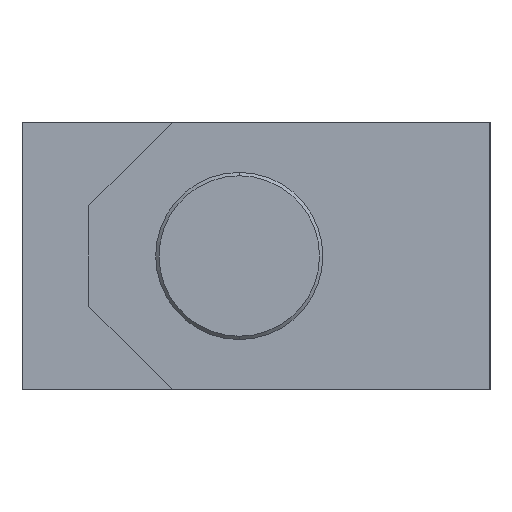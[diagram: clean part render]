
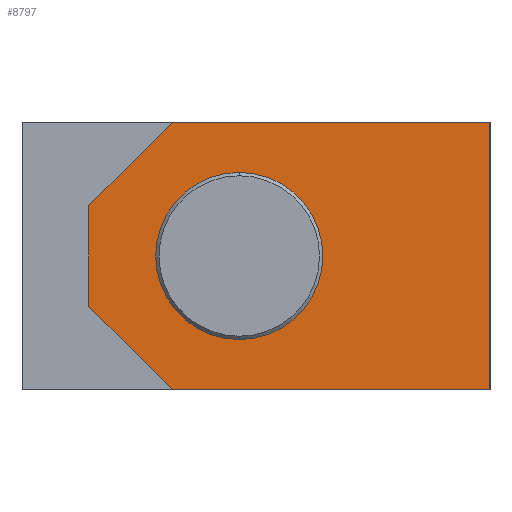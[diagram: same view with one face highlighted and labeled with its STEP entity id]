
A CAD part, left-side view. The second image highlights one B-rep face of the part: STEP entity #8797.
In plain terms, the highlighted planar face has unit normal (-1, 0, 0).
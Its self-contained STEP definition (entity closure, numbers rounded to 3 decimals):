
#340 = DIRECTION ( 'NONE',  ( -1., 0., 0. ) ) ;
#385 = EDGE_CURVE ( 'NONE', #18277, #7025, #10015, .T. ) ;
#622 = CARTESIAN_POINT ( 'NONE',  ( -30., 3., 5. ) ) ;
#796 = VERTEX_POINT ( 'NONE', #25335 ) ;
#1069 = FACE_OUTER_BOUND ( 'NONE', #17005, .T. ) ;
#1491 = LINE ( 'NONE', #9176, #5732 ) ;
#1570 = LINE ( 'NONE', #15392, #24540 ) ;
#1713 = CARTESIAN_POINT ( 'NONE',  ( -30., -12., -8. ) ) ;
#2108 = VECTOR ( 'NONE', #7360, 1000. ) ;
#2469 = ORIENTED_EDGE ( 'NONE', *, *, #385, .F. ) ;
#2875 = EDGE_CURVE ( 'NONE', #18263, #17899, #1491, .T. ) ;
#3131 = EDGE_CURVE ( 'NONE', #21589, #25098, #15040, .T. ) ;
#3338 = LINE ( 'NONE', #7189, #13876 ) ;
#3763 = VECTOR ( 'NONE', #8269, 1000. ) ;
#3883 = AXIS2_PLACEMENT_3D ( 'NONE', #10990, #5105, #5490 ) ;
#4454 = EDGE_LOOP ( 'NONE', ( #24398, #2469 ) ) ;
#4774 = CARTESIAN_POINT ( 'NONE',  ( -30., -12., -8. ) ) ;
#4875 = EDGE_CURVE ( 'NONE', #7025, #18277, #22151, .T. ) ;
#5105 = DIRECTION ( 'NONE',  ( -1., 0., 0. ) ) ;
#5490 = DIRECTION ( 'NONE',  ( 0., 0., 1. ) ) ;
#5732 = VECTOR ( 'NONE', #24794, 1000. ) ;
#6141 = AXIS2_PLACEMENT_3D ( 'NONE', #12219, #16299, #8887 ) ;
#7025 = VERTEX_POINT ( 'NONE', #622 ) ;
#7189 = CARTESIAN_POINT ( 'NONE',  ( -30., -12., 8. ) ) ;
#7360 = DIRECTION ( 'NONE',  ( 0., 0.707, -0.707 ) ) ;
#7659 = DIRECTION ( 'NONE',  ( 0., 0., 1. ) ) ;
#8269 = DIRECTION ( 'NONE',  ( 0., 0., -1. ) ) ;
#8521 = LINE ( 'NONE', #12238, #3763 ) ;
#8797 = ADVANCED_FACE ( 'NONE', ( #18607, #1069 ), #23996, .F. ) ;
#8887 = DIRECTION ( 'NONE',  ( 0., 0., -1. ) ) ;
#9176 = CARTESIAN_POINT ( 'NONE',  ( -30., 12., -3. ) ) ;
#10015 = CIRCLE ( 'NONE', #3883, 5. ) ;
#10098 = ORIENTED_EDGE ( 'NONE', *, *, #16334, .F. ) ;
#10990 = CARTESIAN_POINT ( 'NONE',  ( -30., 3., 0. ) ) ;
#11159 = DIRECTION ( 'NONE',  ( 0., 1., 0. ) ) ;
#11229 = VERTEX_POINT ( 'NONE', #1713 ) ;
#11612 = ORIENTED_EDGE ( 'NONE', *, *, #3131, .T. ) ;
#12219 = CARTESIAN_POINT ( 'NONE',  ( -30., 0., 0. ) ) ;
#12238 = CARTESIAN_POINT ( 'NONE',  ( -30., -12., 8. ) ) ;
#12590 = DIRECTION ( 'NONE',  ( 0., 1., 0. ) ) ;
#12912 = ORIENTED_EDGE ( 'NONE', *, *, #15494, .F. ) ;
#13437 = VECTOR ( 'NONE', #12590, 1000. ) ;
#13534 = CARTESIAN_POINT ( 'NONE',  ( -30., 7., 8. ) ) ;
#13616 = CARTESIAN_POINT ( 'NONE',  ( -30., 7., -8. ) ) ;
#13876 = VECTOR ( 'NONE', #11159, 1000. ) ;
#15005 = CARTESIAN_POINT ( 'NONE',  ( -30., 12., -3. ) ) ;
#15040 = LINE ( 'NONE', #22857, #2108 ) ;
#15392 = CARTESIAN_POINT ( 'NONE',  ( -30., 12., 3. ) ) ;
#15494 = EDGE_CURVE ( 'NONE', #796, #11229, #8521, .T. ) ;
#15827 = ORIENTED_EDGE ( 'NONE', *, *, #18343, .T. ) ;
#16173 = LINE ( 'NONE', #4774, #13437 ) ;
#16299 = DIRECTION ( 'NONE',  ( 1., 0., 0. ) ) ;
#16334 = EDGE_CURVE ( 'NONE', #11229, #17899, #16173, .T. ) ;
#16915 = CARTESIAN_POINT ( 'NONE',  ( -30., 3., -5. ) ) ;
#17005 = EDGE_LOOP ( 'NONE', ( #12912, #15827, #11612, #17393, #18907, #10098 ) ) ;
#17393 = ORIENTED_EDGE ( 'NONE', *, *, #22701, .T. ) ;
#17881 = CARTESIAN_POINT ( 'NONE',  ( -30., 3., 0. ) ) ;
#17899 = VERTEX_POINT ( 'NONE', #13616 ) ;
#18263 = VERTEX_POINT ( 'NONE', #15005 ) ;
#18277 = VERTEX_POINT ( 'NONE', #16915 ) ;
#18343 = EDGE_CURVE ( 'NONE', #796, #21589, #3338, .T. ) ;
#18607 = FACE_BOUND ( 'NONE', #4454, .T. ) ;
#18907 = ORIENTED_EDGE ( 'NONE', *, *, #2875, .T. ) ;
#19771 = AXIS2_PLACEMENT_3D ( 'NONE', #17881, #340, #7659 ) ;
#21589 = VERTEX_POINT ( 'NONE', #13534 ) ;
#22151 = CIRCLE ( 'NONE', #19771, 5. ) ;
#22701 = EDGE_CURVE ( 'NONE', #25098, #18263, #1570, .T. ) ;
#22857 = CARTESIAN_POINT ( 'NONE',  ( -30., 7., 8. ) ) ;
#23548 = CARTESIAN_POINT ( 'NONE',  ( -30., 12., 3. ) ) ;
#23996 = PLANE ( 'NONE',  #6141 ) ;
#24398 = ORIENTED_EDGE ( 'NONE', *, *, #4875, .F. ) ;
#24540 = VECTOR ( 'NONE', #25256, 1000. ) ;
#24794 = DIRECTION ( 'NONE',  ( 0., -0.707, -0.707 ) ) ;
#25098 = VERTEX_POINT ( 'NONE', #23548 ) ;
#25256 = DIRECTION ( 'NONE',  ( 0., 0., -1. ) ) ;
#25335 = CARTESIAN_POINT ( 'NONE',  ( -30., -12., 8. ) ) ;
